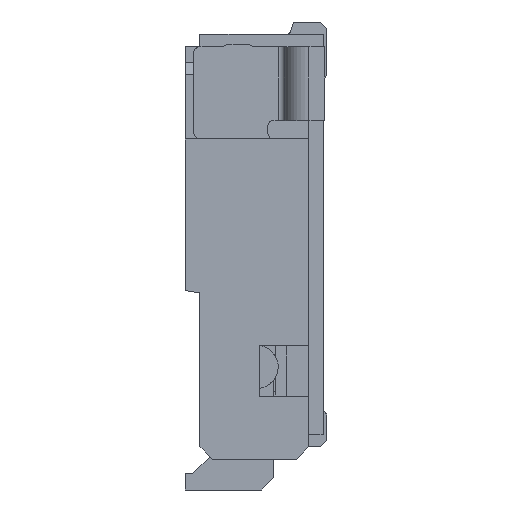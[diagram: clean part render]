
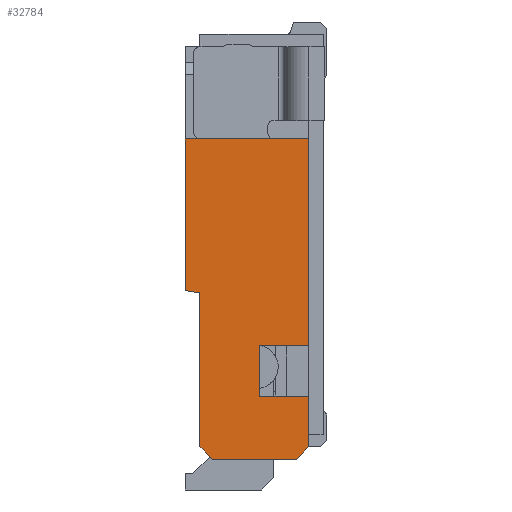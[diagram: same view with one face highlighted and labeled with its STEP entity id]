
A CAD part, left-side view. The second image highlights one B-rep face of the part: STEP entity #32784.
In plain terms, the highlighted planar face has unit normal (-1, 0, 0).
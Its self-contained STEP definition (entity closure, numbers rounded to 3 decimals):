
#25=DIRECTION('',(0.,-1.,0.));
#26=VECTOR('',#25,0.68);
#27=CARTESIAN_POINT('',(-3.3,0.34,-1.725));
#28=LINE('',#27,#26);
#175=DIRECTION('',(0.,0.,1.));
#176=VECTOR('',#175,1.68);
#177=CARTESIAN_POINT('',(-3.3,-0.44,-0.805));
#178=LINE('',#177,#176);
#199=DIRECTION('',(0.,0.,1.));
#200=VECTOR('',#199,0.41);
#201=CARTESIAN_POINT('',(-3.3,-0.44,-1.625));
#202=LINE('',#201,#200);
#1038=DIRECTION('',(0.,0.,-1.));
#1039=VECTOR('',#1038,0.41);
#1040=CARTESIAN_POINT('',(-3.3,-0.04,-0.805));
#1041=LINE('',#1040,#1039);
#1042=DIRECTION('',(0.,1.,0.));
#1043=VECTOR('',#1042,0.4);
#1044=CARTESIAN_POINT('',(-3.3,-0.44,-1.215));
#1045=LINE('',#1044,#1043);
#1046=DIRECTION('',(0.,-0.707,0.707));
#1047=VECTOR('',#1046,0.141);
#1048=CARTESIAN_POINT('',(-3.3,-0.34,-1.725));
#1049=LINE('',#1048,#1047);
#1050=DIRECTION('',(0.,-0.707,-0.707));
#1051=VECTOR('',#1050,0.141);
#1052=CARTESIAN_POINT('',(-3.3,0.44,-1.625));
#1053=LINE('',#1052,#1051);
#1054=DIRECTION('',(0.,0.,1.));
#1055=VECTOR('',#1054,1.25);
#1056=CARTESIAN_POINT('',(-3.3,0.44,-1.625));
#1057=LINE('',#1056,#1055);
#1058=DIRECTION('',(0.,-0.986,-0.164));
#1059=VECTOR('',#1058,0.122);
#1060=CARTESIAN_POINT('',(-3.3,0.56,-0.355));
#1061=LINE('',#1060,#1059);
#1062=DIRECTION('',(0.,0.,1.));
#1063=VECTOR('',#1062,1.23);
#1064=CARTESIAN_POINT('',(-3.3,0.56,-0.355));
#1065=LINE('',#1064,#1063);
#1066=DIRECTION('',(0.,-1.,0.));
#1067=VECTOR('',#1066,1.);
#1068=CARTESIAN_POINT('',(-3.3,0.56,0.875));
#1069=LINE('',#1068,#1067);
#1070=DIRECTION('',(0.,1.,0.));
#1071=VECTOR('',#1070,0.4);
#1072=CARTESIAN_POINT('',(-3.3,-0.44,-0.805));
#1073=LINE('',#1072,#1071);
#24015=CARTESIAN_POINT('',(-3.3,0.44,-1.625));
#24016=CARTESIAN_POINT('',(-3.3,0.34,-1.725));
#24017=VERTEX_POINT('',#24015);
#24018=VERTEX_POINT('',#24016);
#24019=CARTESIAN_POINT('',(-3.3,0.44,-0.375));
#24020=VERTEX_POINT('',#24019);
#24023=CARTESIAN_POINT('',(-3.3,-0.34,-1.725));
#24024=VERTEX_POINT('',#24023);
#24027=CARTESIAN_POINT('',(-3.3,-0.44,-1.625));
#24028=VERTEX_POINT('',#24027);
#24485=CARTESIAN_POINT('',(-3.3,0.56,-0.355));
#24486=VERTEX_POINT('',#24485);
#24489=CARTESIAN_POINT('',(-3.3,0.56,0.875));
#24490=CARTESIAN_POINT('',(-3.3,-0.44,0.875));
#24491=VERTEX_POINT('',#24489);
#24492=VERTEX_POINT('',#24490);
#25423=CARTESIAN_POINT('',(-3.3,-0.04,-0.805));
#25424=CARTESIAN_POINT('',(-3.3,-0.04,-1.215));
#25425=VERTEX_POINT('',#25423);
#25426=VERTEX_POINT('',#25424);
#25427=CARTESIAN_POINT('',(-3.3,-0.44,-1.215));
#25428=VERTEX_POINT('',#25427);
#25429=CARTESIAN_POINT('',(-3.3,-0.44,-0.805));
#25430=VERTEX_POINT('',#25429);
#32759=CARTESIAN_POINT('',(-3.3,0.56,-1.725));
#32760=DIRECTION('',(-1.,0.,0.));
#32761=DIRECTION('',(0.,-1.,0.));
#32762=AXIS2_PLACEMENT_3D('',#32759,#32760,#32761);
#32763=PLANE('',#32762);
#32764=ORIENTED_EDGE('',*,*,#31923,.T.);
#32766=ORIENTED_EDGE('',*,*,#32765,.F.);
#32767=ORIENTED_EDGE('',*,*,#31840,.F.);
#32769=ORIENTED_EDGE('',*,*,#32768,.F.);
#32770=ORIENTED_EDGE('',*,*,#31654,.F.);
#32771=ORIENTED_EDGE('',*,*,#32739,.F.);
#32772=ORIENTED_EDGE('',*,*,#32466,.T.);
#32774=ORIENTED_EDGE('',*,*,#32773,.F.);
#32776=ORIENTED_EDGE('',*,*,#32775,.T.);
#32778=ORIENTED_EDGE('',*,*,#32777,.T.);
#32779=ORIENTED_EDGE('',*,*,#31824,.F.);
#32781=ORIENTED_EDGE('',*,*,#32780,.T.);
#32782=EDGE_LOOP('',(#32764,#32766,#32767,#32769,#32770,#32771,#32772,#32774,
#32776,#32778,#32779,#32781));
#32783=FACE_OUTER_BOUND('',#32782,.F.);
#32784=ADVANCED_FACE('',(#32783),#32763,.T.);
#31654=EDGE_CURVE('',#24018,#24024,#28,.T.);
#31824=EDGE_CURVE('',#25430,#24492,#178,.T.);
#31840=EDGE_CURVE('',#24028,#25428,#202,.T.);
#31923=EDGE_CURVE('',#25425,#25426,#1041,.T.);
#32466=EDGE_CURVE('',#24017,#24020,#1057,.T.);
#32739=EDGE_CURVE('',#24017,#24018,#1053,.T.);
#32765=EDGE_CURVE('',#25428,#25426,#1045,.T.);
#32768=EDGE_CURVE('',#24024,#24028,#1049,.T.);
#32773=EDGE_CURVE('',#24486,#24020,#1061,.T.);
#32775=EDGE_CURVE('',#24486,#24491,#1065,.T.);
#32777=EDGE_CURVE('',#24491,#24492,#1069,.T.);
#32780=EDGE_CURVE('',#25430,#25425,#1073,.T.);
